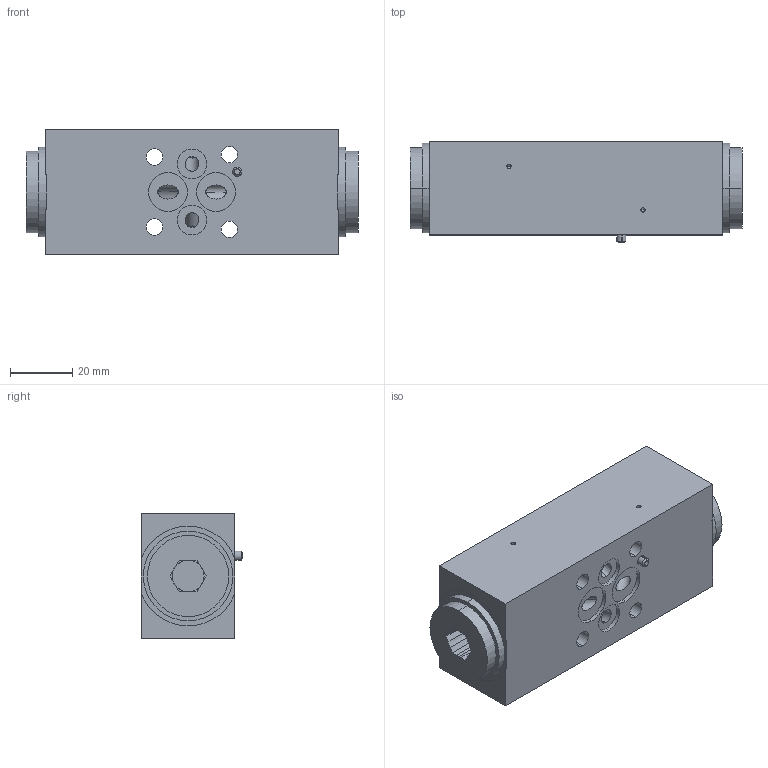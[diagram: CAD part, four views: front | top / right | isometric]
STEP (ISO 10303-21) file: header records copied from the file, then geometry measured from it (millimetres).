
FILE_DESCRIPTION (( 'STEP AP214' ), '1' );
FILE_NAME ('RNXSB04-B.STEP', '2017-04-11T09:38:22', ( '' ), ( '' ), 'SwSTEP 2.0', 'SolidWorks 2016', '' );
FILE_SCHEMA (( 'AUTOMOTIVE_DESIGN' ));
Length unit declared in the file: millimetre
Products named in the file (1): RNXSB04-B
Bounding box: 106.4 x 32.5 x 40 mm (x, y, z)
Volume: 113084.5 mm3; surface area: 24731 mm2
Topology: 6 solids, 6 shells, 196 faces, 478 edges, 302 vertices
Faces by surface type: cylinder 88, plane 72, cone 28, torus 8
Entity records: 8041 total; most frequent: CARTESIAN_POINT 1141, DIRECTION 1030, ORIENTED_EDGE 932, EDGE_CURVE 466, AXIS2_PLACEMENT_3D 403, VERTEX_POINT 302, EDGE_LOOP 236, VECTOR 224
